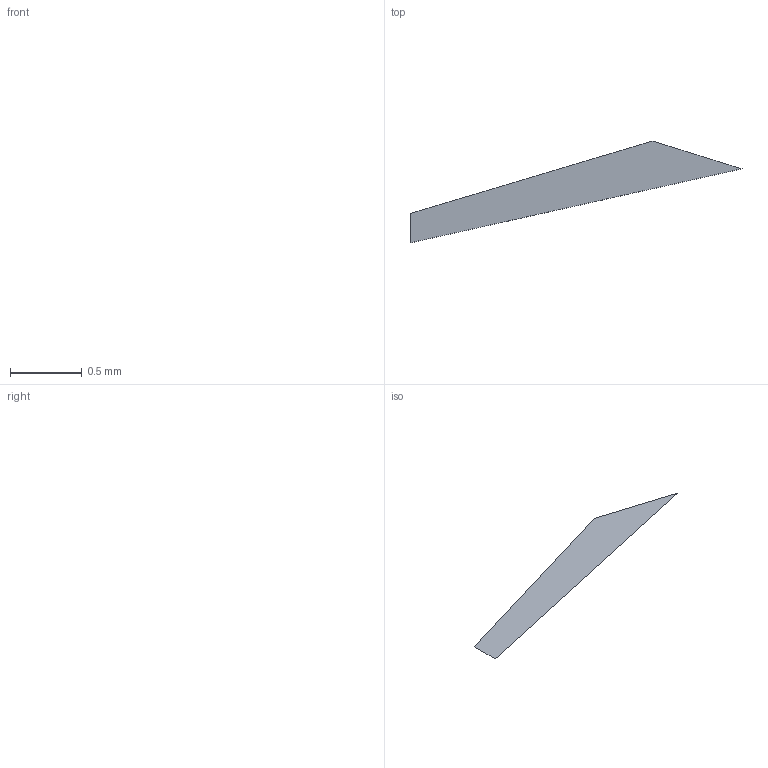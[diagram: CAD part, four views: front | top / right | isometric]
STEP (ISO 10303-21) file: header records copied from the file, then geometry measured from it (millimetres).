
FILE_DESCRIPTION(/* description */ ('STEP AP242 Edition 2','CAx-IF Rec.Pracs.---Representation and Presentation of Product Manufacturing Information (PMI)---4.0---2014-10-13','CAx-IF Rec.Pracs.---3D Tessellated Geometry---0.4---2014-09-14','2;1','CAx-IF Rec.Pracs.---User Defined Attributes---1.5---2016-08-15'),/* implementation_level */ '2;1');
FILE_NAME(/* name */ 'Assembly 1 - Part 82',/* time_stamp */ '2026-03-29T21:14:58Z',/* author */ (''),/* organization */ (''),/* preprocessor_version */ 'ST-DEVELOPER v20',/* originating_system */ 'ONSHAPE BY PTC INC, 1.212',/* authorisation */ ' ');
FILE_SCHEMA (('AP242_MANAGED_MODEL_BASED_3D_ENGINEERING_MIM_LF { 1 0 10303 442 3 1 4 }'));
Length unit declared in the file: metre
Products named in the file (1): Part 82
Bounding box: 2.31 x 0.71 x 0 mm (x, y, z)
Surface area: 1.1 mm2 (no closed solid volume)
Topology: 0 solids, 1 shells, 1 faces, 0 edges, 0 vertices
Faces by surface type: other 1
Entity records: 31 total; most frequent: DIRECTION 2, SHAPE_REPRESENTATION_RELATIONSHIP 1, TESSELLATED_SHAPE_REPRESENTATION 1, STYLED_ITEM 1, PRESENTATION_STYLE_ASSIGNMENT 1, SURFACE_STYLE_USAGE 1, SURFACE_SIDE_STYLE 1, SURFACE_STYLE_FILL_AREA 1
